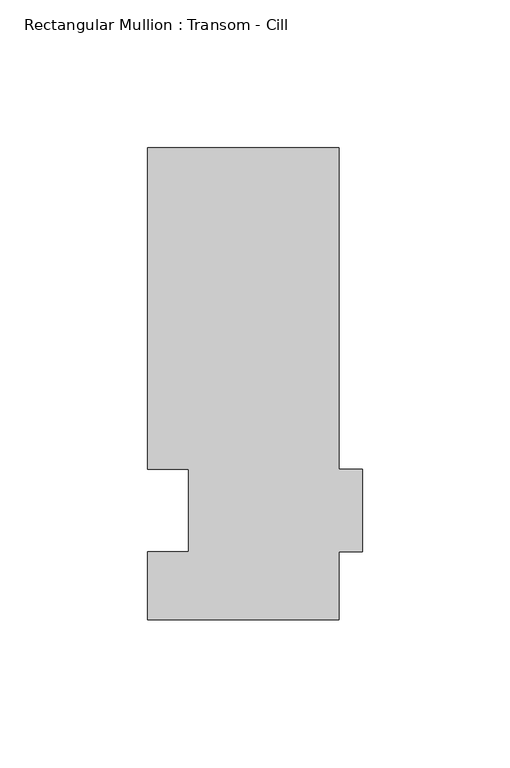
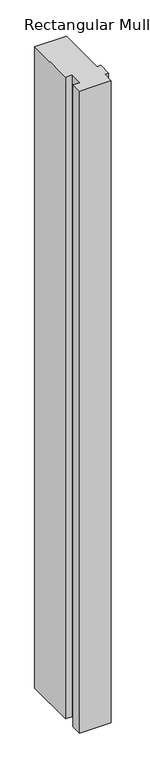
"""IFC4 building model written with IfcOpenShell, lengths in millimetres: member geometry, Rectangular Mullion : Transom - Cill."""

import ifcopenshell
import ifcopenshell.guid

model = None  # the IFC model being written
_history = None  # IfcOwnerHistory: only IFC2X3 demands one
_inside = {}  # id of a spatial element -> (the spatial element, [elements in it])
_under = {}  # id of a project, library or spatial element -> (it, [spatial elements below it])
_declared = {}  # id of a project -> (the project, [libraries it declares])
_typed = {}  # id of a type object -> (the type object, [elements of that type])
_made_of = {}  # id of a material, layer set ... -> (it, [elements and type objects made of it])


def new_model(schema):
    """Start an empty IFC model of exactly this schema.

    Asked for "IFC4X3", IfcOpenShell would pick the latest addendum, in which some entities
    have other attributes; the version numbers below select the first issue.
    IFC2X3 requires an IfcOwnerHistory on every rooted entity: one is made here for all.
    """
    global model, _history
    if schema == "IFC4X3":
        model = ifcopenshell.file(schema_version=(4, 3, 0, 0))
    else:
        model = ifcopenshell.file(schema=schema)
    _inside.clear()
    _under.clear()
    _declared.clear()
    _typed.clear()
    _made_of.clear()
    _history = None
    if model.schema == "IFC2X3":
        org = make("IfcOrganization", Name="unknown")
        user = make(
            "IfcPersonAndOrganization",
            ThePerson=make("IfcPerson", FamilyName="unknown"),
            TheOrganization=org,
        )
        app = make(
            "IfcApplication",
            ApplicationDeveloper=org,
            Version="unknown",
            ApplicationFullName="unknown",
            ApplicationIdentifier="unknown",
        )
        _history = make(
            "IfcOwnerHistory",
            OwningUser=user,
            OwningApplication=app,
            ChangeAction="ADDED",
            CreationDate=0,
        )
    return model


def make(cls, **values):
    """One entity of the class cls with the attributes given. An attribute that is None is left unset."""
    return model.create_entity(
        cls, **{name: value for name, value in values.items() if value is not None}
    )


def rooted(cls, **values):
    """An entity with a GlobalId (a new one), such as an element, a storey or a relation."""
    return make(cls, GlobalId=ifcopenshell.guid.new(), OwnerHistory=_history, **values)


def si_unit(unit_type, name, prefix=None):
    """IfcSIUnit, for example si_unit("LENGTHUNIT", "METRE", prefix="MILLI")."""
    return make("IfcSIUnit", UnitType=unit_type, Prefix=prefix, Name=name)


def assignment(units):
    """IfcUnitAssignment: the units of a project."""
    return None if units is None else make("IfcUnitAssignment", Units=units)


def point(xyz):
    """IfcCartesianPoint."""
    return None if xyz is None else make("IfcCartesianPoint", Coordinates=xyz)


def direction(xyz):
    """IfcDirection."""
    return None if xyz is None else make("IfcDirection", DirectionRatios=xyz)


def frame(location, z_axis=None, x_axis=None):
    """IfcAxis2Placement3D, a coordinate frame: its origin and axes. An axis left out is left unset."""
    return make(
        "IfcAxis2Placement3D",
        Location=point(location),
        Axis=direction(z_axis),
        RefDirection=direction(x_axis),
    )


def origin():
    """The frame at (0, 0, 0) with its axes left unset."""
    return frame((0.0, 0.0, 0.0))


def place(relative_to, where):
    """IfcLocalPlacement: puts the frame where relative to a parent placement (None: the world)."""
    return make(
        "IfcLocalPlacement", PlacementRelTo=relative_to, RelativePlacement=where
    )


def context(
    kind, dimensions, precision=None, world=None, true_north=None, identifier=None
):
    """IfcGeometricRepresentationContext, for example the 3D "Model" context."""
    return make(
        "IfcGeometricRepresentationContext",
        ContextIdentifier=identifier,
        ContextType=kind,
        CoordinateSpaceDimension=dimensions,
        Precision=precision,
        WorldCoordinateSystem=world,
        TrueNorth=true_north,
    )


def project(units=None, contexts=None):
    """IfcProject with its units and contexts."""
    return rooted(
        "IfcProject",
        Name="project",
        RepresentationContexts=contexts,
        UnitsInContext=assignment(units),
    )


def spatial(cls, under=None, at=None, **own):
    """A site, building, storey or space (cls), placed at a placement, below another one or the project."""
    s = rooted(cls, ObjectPlacement=at, **own)
    if under is not None:
        _under.setdefault(under.id(), (under, []))[1].append(s)
    return s


def polyline(points):
    """IfcPolyline through the points."""
    return make("IfcPolyline", Points=[point(p) for p in points])


def outline(outer, holes=None, kind="AREA"):
    """IfcArbitraryClosedProfileDef: a profile drawn as a closed curve; with holes, ...WithVoids."""
    if holes is None:
        return make("IfcArbitraryClosedProfileDef", ProfileType=kind, OuterCurve=outer)
    return make(
        "IfcArbitraryProfileDefWithVoids",
        ProfileType=kind,
        OuterCurve=outer,
        InnerCurves=holes,
    )


def extrude(swept, where, along, depth):
    """IfcExtrudedAreaSolid: the profile swept, set in the frame where, extruded along a direction by depth."""
    return make(
        "IfcExtrudedAreaSolid",
        SweptArea=swept,
        Position=where,
        ExtrudedDirection=direction(along),
        Depth=depth,
    )


def shape(context_of_items, identifier, shape_type, items):
    """IfcShapeRepresentation: the items that make up one representation, for example the "Body"."""
    return make(
        "IfcShapeRepresentation",
        ContextOfItems=context_of_items,
        RepresentationIdentifier=identifier,
        RepresentationType=shape_type,
        Items=items,
    )


def source(mapping_origin, context_of_items, identifier, shape_type, items):
    """IfcRepresentationMap: a shape defined once, which mapped items show again and again."""
    return make(
        "IfcRepresentationMap",
        MappingOrigin=mapping_origin,
        MappedRepresentation=shape(context_of_items, identifier, shape_type, items),
    )


def transform(
    local_origin,
    x_axis=None,
    y_axis=None,
    z_axis=None,
    scale=None,
    scale2=None,
    scale3=None,
    uniform=True,
):
    """IfcCartesianTransformationOperator3D, or its non-uniform kind. x_axis, y_axis, z_axis: its Axis1, 2, 3."""
    if uniform:
        return make(
            "IfcCartesianTransformationOperator3D",
            Axis1=direction(x_axis),
            Axis2=direction(y_axis),
            LocalOrigin=point(local_origin),
            Scale=scale,
            Axis3=direction(z_axis),
        )
    return make(
        "IfcCartesianTransformationOperator3DnonUniform",
        Axis1=direction(x_axis),
        Axis2=direction(y_axis),
        LocalOrigin=point(local_origin),
        Scale=scale,
        Axis3=direction(z_axis),
        Scale2=scale2,
        Scale3=scale3,
    )


def mapped(mapping_source, mapping_target):
    """IfcMappedItem: shows the shape of a source again, moved by a transform."""
    return make(
        "IfcMappedItem", MappingSource=mapping_source, MappingTarget=mapping_target
    )


def made_of(thing, what):
    """Note that an element or type object is made of a material, layer set ...; save() writes the relation."""
    if what is not None:
        _made_of.setdefault(what.id(), (what, []))[1].append(thing)
    return thing


def element(
    cls,
    number,
    at=None,
    inside=None,
    cuts=None,
    type_object=None,
    material=None,
    context=None,
    identifier="Body",
    shape_type=None,
    held_by="IfcProductDefinitionShape",
    body=None,
    shapes=None,
    **own,
):
    """One element of the class cls, such as IfcWall. Its Tag is "e" and its number.

    at: its placement. inside: the storey or other place that contains it. cuts: it is an
    opening in that element (IfcRelVoidsElement). A single representation is given by context,
    identifier, shape_type and body (its items); several are given by shapes. held_by: the class
    of the entity that holds the representations. save() writes the other relations.
    """
    e = rooted(cls, Tag="e%d" % number, ObjectPlacement=at, **own)
    if body is not None:
        shapes = [shape(context, identifier, shape_type, body)]
    if shapes is not None:
        e.Representation = make(held_by, Representations=shapes)
    if inside is not None:
        _inside.setdefault(inside.id(), (inside, []))[1].append(e)
    if cuts is not None:
        rooted(
            "IfcRelVoidsElement", RelatingBuildingElement=cuts, RelatedOpeningElement=e
        )
    if type_object is not None:
        _typed.setdefault(type_object.id(), (type_object, []))[1].append(e)
    return made_of(e, material)


def aggregate(whole, parts):
    """IfcRelAggregates: a whole, such as a stair, and the parts it consists of."""
    return rooted("IfcRelAggregates", RelatingObject=whole, RelatedObjects=parts)


def save(model, path):
    """Write the relations noted so far, then the file.

    IfcRelAggregates (storeys below a building ...), IfcRelContainedInSpatialStructure (elements
    in a storey), IfcRelDefinesByType, IfcRelAssociatesMaterial and IfcRelDeclares: one each for
    every whole, place, type object, material and project.
    """
    for whole, parts in _under.values():
        aggregate(whole, parts)
    for where, things in _inside.values():
        rooted(
            "IfcRelContainedInSpatialStructure",
            RelatedElements=things,
            RelatingStructure=where,
        )
    for kind, things in _typed.values():
        rooted("IfcRelDefinesByType", RelatedObjects=things, RelatingType=kind)
    for what, things in _made_of.values():
        rooted("IfcRelAssociatesMaterial", RelatedObjects=things, RelatingMaterial=what)
    for by, libraries in _declared.values():
        rooted("IfcRelDeclares", RelatingContext=by, RelatedDefinitions=libraries)
    model.write(path)


def rectangular_mullion_transom_cill_0e649152(model_context):
    return source(origin(), model_context, "Body", "SweptSolid", [
        extrude(outline(polyline([(-8.0, -14.0), (-8.0, -37.0307322), (-73.0, -37.0307322), (-73.0, -14.0), (-59.0, -14.0), (-59.0, 14.0), (-73.0, 14.0), (-73.0, 123.0), (-8.0, 123.0), (-8.0, 14.0), (0.0, 14.0), (0.0, -14.0), (-8.0, -14.0)])), frame((0.0, 0.0, -1394.5), z_axis=(0.0, 0.0, 1.0), x_axis=(1.0, 0.0, 0.0)), (0.0, 0.0, 1.0), 1394.5),
    ])


if __name__ == "__main__":
    model = new_model("IFC4")
    model_context = context("Model", 3, world=origin())
    ifc_project = project(units=[si_unit("LENGTHUNIT", "METRE", prefix="MILLI")], contexts=[model_context])
    site = spatial("IfcSite", under=ifc_project)
    building = spatial("IfcBuilding", under=site)
    placement = place(None, origin())
    rectangular_mullion_transom_cill_shape = rectangular_mullion_transom_cill_0e649152(model_context)
    element("IfcMember", 1, ObjectType="Rectangular Mullion : Transom - Cill", at=placement, inside=building, context=model_context, shape_type="MappedRepresentation", body=[
        mapped(rectangular_mullion_transom_cill_shape, transform((0.0, 0.0, 0.0), x_axis=(1.0, 0.0, 0.0), y_axis=(0.0, 1.0, 0.0), z_axis=(0.0, 0.0, 1.0))),
    ])
    save(model, "model.ifc")
